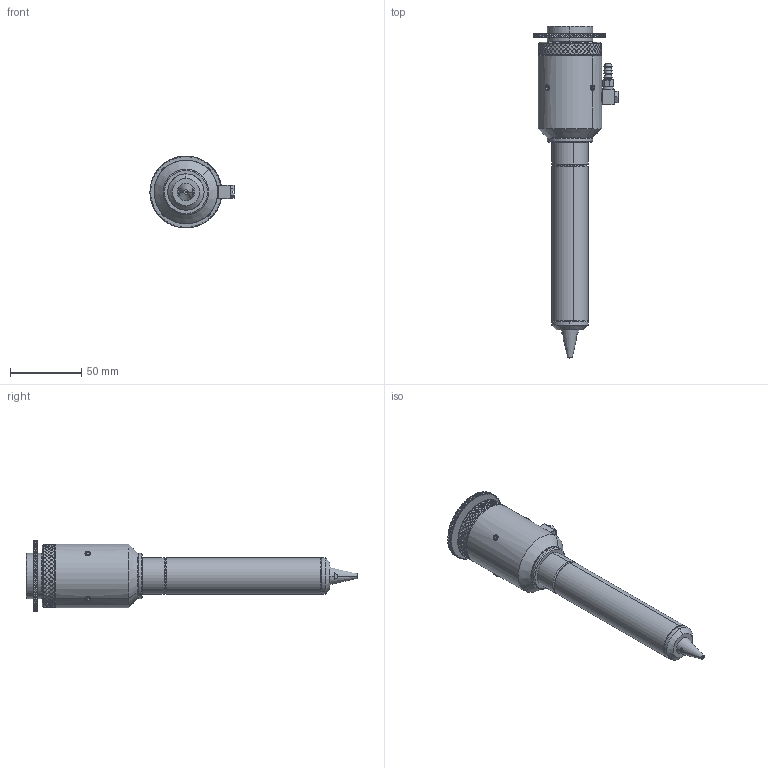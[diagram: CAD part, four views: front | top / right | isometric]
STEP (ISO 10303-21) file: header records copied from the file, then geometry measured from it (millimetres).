
FILE_DESCRIPTION (( 'STEP AP214' ), '1' );
FILE_NAME ('PHA-25-25-191-LB.STEP', '2016-10-11T18:54:32', ( '' ), ( '' ), 'SwSTEP 2.0', 'SolidWorks 2016', '' );
FILE_SCHEMA (( 'AUTOMOTIVE_DESIGN' ));
Length unit declared in the file: inch
Products named in the file (1): PHA-25-25-191-LB
Bounding box: 58.8 x 232.28 x 50.29 mm (x, y, z)
Volume: 170978 mm3; surface area: 30433.1 mm2
Topology: 1 solids, 1 shells, 2811 faces, 6208 edges, 3406 vertices
Faces by surface type: plane 2116, cylinder 598, cone 40, torus 37, sphere 20
Entity records: 74124 total; most frequent: CARTESIAN_POINT 19501, ORIENTED_EDGE 12376, DIRECTION 10170, EDGE_CURVE 6188, VERTEX_POINT 3406, AXIS2_PLACEMENT_3D 3397, LINE 3376, VECTOR 3376
